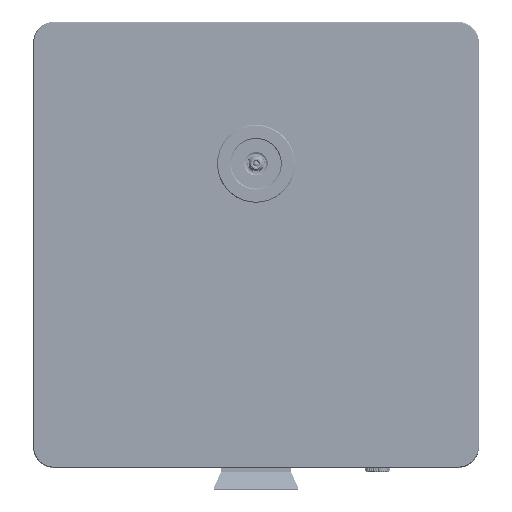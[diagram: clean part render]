
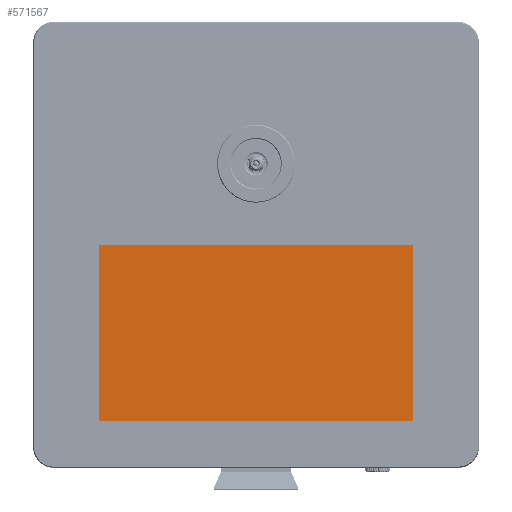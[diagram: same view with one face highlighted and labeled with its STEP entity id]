
A CAD part, top view. The second image highlights one B-rep face of the part: STEP entity #571567.
In plain terms, the highlighted planar face has unit normal (0, 0, 1) as drawn and (0, 1, 0) by its records, which use the part's own axes.
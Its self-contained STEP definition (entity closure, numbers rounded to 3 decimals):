
#8027 = VECTOR ( 'NONE', #126781, 1000. ) ;
#46132 = DIRECTION ( 'NONE',  ( 1., 0., 0. ) ) ;
#46446 = LINE ( 'NONE', #410545, #572179 ) ;
#59246 = CARTESIAN_POINT ( 'NONE',  ( -77.44, 0.65, 43.36 ) ) ;
#60556 = CARTESIAN_POINT ( 'NONE',  ( -77.44, 0.65, 43.36 ) ) ;
#67118 = LINE ( 'NONE', #264854, #78790 ) ;
#69041 = EDGE_CURVE ( 'NONE', #621860, #111537, #646650, .T. ) ;
#78310 = CARTESIAN_POINT ( 'NONE',  ( 77.44, 0.65, 43.36 ) ) ;
#78790 = VECTOR ( 'NONE', #115720, 1000. ) ;
#111537 = VERTEX_POINT ( 'NONE', #266254 ) ;
#115720 = DIRECTION ( 'NONE',  ( 1., 0., 0. ) ) ;
#121083 = EDGE_CURVE ( 'NONE', #111537, #247080, #67118, .T. ) ;
#126781 = DIRECTION ( 'NONE',  ( 0., 0., 1. ) ) ;
#147874 = ORIENTED_EDGE ( 'NONE', *, *, #69041, .F. ) ;
#190254 = VERTEX_POINT ( 'NONE', #78310 ) ;
#198740 = CARTESIAN_POINT ( 'NONE',  ( 0., 0.65, 0. ) ) ;
#203267 = EDGE_CURVE ( 'NONE', #247080, #190254, #338233, .T. ) ;
#205484 = ORIENTED_EDGE ( 'NONE', *, *, #203267, .F. ) ;
#224553 = EDGE_CURVE ( 'NONE', #190254, #621860, #46446, .T. ) ;
#247080 = VERTEX_POINT ( 'NONE', #562949 ) ;
#259150 = AXIS2_PLACEMENT_3D ( 'NONE', #198740, #580185, #46132 ) ;
#264854 = CARTESIAN_POINT ( 'NONE',  ( -77.44, 0.65, -43.36 ) ) ;
#266254 = CARTESIAN_POINT ( 'NONE',  ( -77.44, 0.65, -43.36 ) ) ;
#268514 = DIRECTION ( 'NONE',  ( 0., 0., -1. ) ) ;
#323070 = VECTOR ( 'NONE', #268514, 1000. ) ;
#338233 = LINE ( 'NONE', #553371, #8027 ) ;
#410545 = CARTESIAN_POINT ( 'NONE',  ( 77.44, 0.65, 43.36 ) ) ;
#420558 = PLANE ( 'NONE',  #259150 ) ;
#508224 = ORIENTED_EDGE ( 'NONE', *, *, #224553, .F. ) ;
#531010 = ORIENTED_EDGE ( 'NONE', *, *, #121083, .F. ) ;
#553371 = CARTESIAN_POINT ( 'NONE',  ( 77.44, 0.65, -43.36 ) ) ;
#562949 = CARTESIAN_POINT ( 'NONE',  ( 77.44, 0.65, -43.36 ) ) ;
#566504 = FACE_OUTER_BOUND ( 'NONE', #604743, .T. ) ;
#571567 = ADVANCED_FACE ( 'NONE', ( #566504 ), #420558, .T. ) ;
#572179 = VECTOR ( 'NONE', #615479, 1000. ) ;
#580185 = DIRECTION ( 'NONE',  ( 0., 1., 0. ) ) ;
#604743 = EDGE_LOOP ( 'NONE', ( #147874, #508224, #205484, #531010 ) ) ;
#615479 = DIRECTION ( 'NONE',  ( -1., 0., 0. ) ) ;
#621860 = VERTEX_POINT ( 'NONE', #59246 ) ;
#646650 = LINE ( 'NONE', #60556, #323070 ) ;
